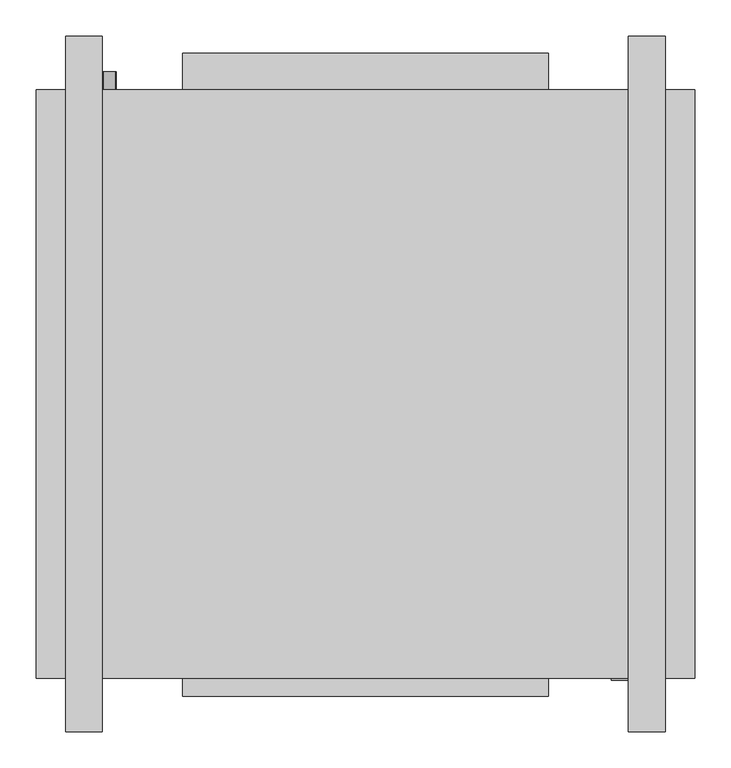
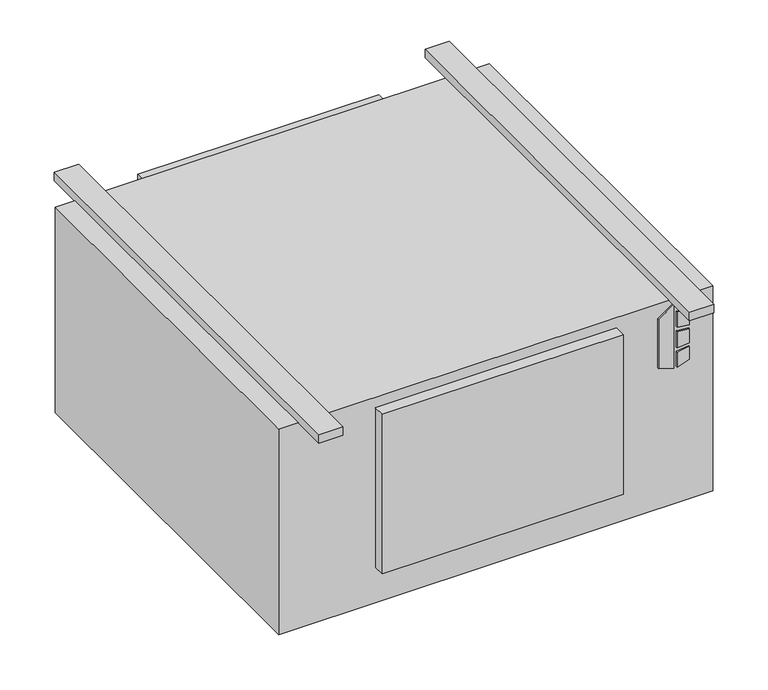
"""IFC4 building model written with IfcOpenShell, lengths in millimetres: proxy geometry, Concealed_High_Capacity_Horizontal_Cabinet_Fan_Coil_Unit_-_HXY_-_IEC_-_4-Pipe_LH_2022 : Size 08 - 277v/60Hz/1Ph - 6/2 Coil."""

import ifcopenshell
import ifcopenshell.guid

model = None  # the IFC model being written
_history = None  # IfcOwnerHistory: only IFC2X3 demands one
_inside = {}  # id of a spatial element -> (the spatial element, [elements in it])
_under = {}  # id of a project, library or spatial element -> (it, [spatial elements below it])
_declared = {}  # id of a project -> (the project, [libraries it declares])
_typed = {}  # id of a type object -> (the type object, [elements of that type])
_made_of = {}  # id of a material, layer set ... -> (it, [elements and type objects made of it])


def new_model(schema):
    """Start an empty IFC model of exactly this schema.

    Asked for "IFC4X3", IfcOpenShell would pick the latest addendum, in which some entities
    have other attributes; the version numbers below select the first issue.
    IFC2X3 requires an IfcOwnerHistory on every rooted entity: one is made here for all.
    """
    global model, _history
    if schema == "IFC4X3":
        model = ifcopenshell.file(schema_version=(4, 3, 0, 0))
    else:
        model = ifcopenshell.file(schema=schema)
    _inside.clear()
    _under.clear()
    _declared.clear()
    _typed.clear()
    _made_of.clear()
    _history = None
    if model.schema == "IFC2X3":
        org = make("IfcOrganization", Name="unknown")
        user = make(
            "IfcPersonAndOrganization",
            ThePerson=make("IfcPerson", FamilyName="unknown"),
            TheOrganization=org,
        )
        app = make(
            "IfcApplication",
            ApplicationDeveloper=org,
            Version="unknown",
            ApplicationFullName="unknown",
            ApplicationIdentifier="unknown",
        )
        _history = make(
            "IfcOwnerHistory",
            OwningUser=user,
            OwningApplication=app,
            ChangeAction="ADDED",
            CreationDate=0,
        )
    return model


def make(cls, **values):
    """One entity of the class cls with the attributes given. An attribute that is None is left unset."""
    return model.create_entity(
        cls, **{name: value for name, value in values.items() if value is not None}
    )


def rooted(cls, **values):
    """An entity with a GlobalId (a new one), such as an element, a storey or a relation."""
    return make(cls, GlobalId=ifcopenshell.guid.new(), OwnerHistory=_history, **values)


def si_unit(unit_type, name, prefix=None):
    """IfcSIUnit, for example si_unit("LENGTHUNIT", "METRE", prefix="MILLI")."""
    return make("IfcSIUnit", UnitType=unit_type, Prefix=prefix, Name=name)


def assignment(units):
    """IfcUnitAssignment: the units of a project."""
    return None if units is None else make("IfcUnitAssignment", Units=units)


def point(xyz):
    """IfcCartesianPoint."""
    return None if xyz is None else make("IfcCartesianPoint", Coordinates=xyz)


def direction(xyz):
    """IfcDirection."""
    return None if xyz is None else make("IfcDirection", DirectionRatios=xyz)


def frame(location, z_axis=None, x_axis=None):
    """IfcAxis2Placement3D, a coordinate frame: its origin and axes. An axis left out is left unset."""
    return make(
        "IfcAxis2Placement3D",
        Location=point(location),
        Axis=direction(z_axis),
        RefDirection=direction(x_axis),
    )


def frame_2d(location, x_axis=None):
    """IfcAxis2Placement2D, a coordinate frame in the plane: its origin and x axis."""
    return make(
        "IfcAxis2Placement2D", Location=point(location), RefDirection=direction(x_axis)
    )


def origin():
    """The frame at (0, 0, 0) with its axes left unset."""
    return frame((0.0, 0.0, 0.0))


def origin_with_axes():
    """The frame at (0, 0, 0) with the z axis (0, 0, 1) and the x axis (1, 0, 0) written out."""
    return frame((0.0, 0.0, 0.0), z_axis=(0.0, 0.0, 1.0), x_axis=(1.0, 0.0, 0.0))


def place(relative_to, where):
    """IfcLocalPlacement: puts the frame where relative to a parent placement (None: the world)."""
    return make(
        "IfcLocalPlacement", PlacementRelTo=relative_to, RelativePlacement=where
    )


def context(
    kind, dimensions, precision=None, world=None, true_north=None, identifier=None
):
    """IfcGeometricRepresentationContext, for example the 3D "Model" context."""
    return make(
        "IfcGeometricRepresentationContext",
        ContextIdentifier=identifier,
        ContextType=kind,
        CoordinateSpaceDimension=dimensions,
        Precision=precision,
        WorldCoordinateSystem=world,
        TrueNorth=true_north,
    )


def project(units=None, contexts=None):
    """IfcProject with its units and contexts."""
    return rooted(
        "IfcProject",
        Name="project",
        RepresentationContexts=contexts,
        UnitsInContext=assignment(units),
    )


def spatial(cls, under=None, at=None, **own):
    """A site, building, storey or space (cls), placed at a placement, below another one or the project."""
    s = rooted(cls, ObjectPlacement=at, **own)
    if under is not None:
        _under.setdefault(under.id(), (under, []))[1].append(s)
    return s


def polyline(points):
    """IfcPolyline through the points."""
    return make("IfcPolyline", Points=[point(p) for p in points])


def circle_curve(where, radius):
    """IfcCircle in the frame where."""
    return make("IfcCircle", Position=where, Radius=radius)


def trimmed(basis, trim1, trim2, sense, master):
    """IfcTrimmedCurve: the piece of a basis curve between two trims."""
    return make(
        "IfcTrimmedCurve",
        BasisCurve=basis,
        Trim1=trim1,
        Trim2=trim2,
        SenseAgreement=sense,
        MasterRepresentation=master,
    )


def segment(curve, same_sense, transition):
    """IfcCompositeCurveSegment."""
    return make(
        "IfcCompositeCurveSegment",
        Transition=transition,
        SameSense=same_sense,
        ParentCurve=curve,
    )


def composite_curve(segments, self_intersect=None):
    """IfcCompositeCurve: segments joined end to end."""
    return make("IfcCompositeCurve", Segments=segments, SelfIntersect=self_intersect)


def outline(outer, holes=None, kind="AREA"):
    """IfcArbitraryClosedProfileDef: a profile drawn as a closed curve; with holes, ...WithVoids."""
    if holes is None:
        return make("IfcArbitraryClosedProfileDef", ProfileType=kind, OuterCurve=outer)
    return make(
        "IfcArbitraryProfileDefWithVoids",
        ProfileType=kind,
        OuterCurve=outer,
        InnerCurves=holes,
    )


def extrude(swept, where, along, depth):
    """IfcExtrudedAreaSolid: the profile swept, set in the frame where, extruded along a direction by depth."""
    return make(
        "IfcExtrudedAreaSolid",
        SweptArea=swept,
        Position=where,
        ExtrudedDirection=direction(along),
        Depth=depth,
    )


def shape(context_of_items, identifier, shape_type, items):
    """IfcShapeRepresentation: the items that make up one representation, for example the "Body"."""
    return make(
        "IfcShapeRepresentation",
        ContextOfItems=context_of_items,
        RepresentationIdentifier=identifier,
        RepresentationType=shape_type,
        Items=items,
    )


def source(mapping_origin, context_of_items, identifier, shape_type, items):
    """IfcRepresentationMap: a shape defined once, which mapped items show again and again."""
    return make(
        "IfcRepresentationMap",
        MappingOrigin=mapping_origin,
        MappedRepresentation=shape(context_of_items, identifier, shape_type, items),
    )


def transform(
    local_origin,
    x_axis=None,
    y_axis=None,
    z_axis=None,
    scale=None,
    scale2=None,
    scale3=None,
    uniform=True,
):
    """IfcCartesianTransformationOperator3D, or its non-uniform kind. x_axis, y_axis, z_axis: its Axis1, 2, 3."""
    if uniform:
        return make(
            "IfcCartesianTransformationOperator3D",
            Axis1=direction(x_axis),
            Axis2=direction(y_axis),
            LocalOrigin=point(local_origin),
            Scale=scale,
            Axis3=direction(z_axis),
        )
    return make(
        "IfcCartesianTransformationOperator3DnonUniform",
        Axis1=direction(x_axis),
        Axis2=direction(y_axis),
        LocalOrigin=point(local_origin),
        Scale=scale,
        Axis3=direction(z_axis),
        Scale2=scale2,
        Scale3=scale3,
    )


def mapped(mapping_source, mapping_target):
    """IfcMappedItem: shows the shape of a source again, moved by a transform."""
    return make(
        "IfcMappedItem", MappingSource=mapping_source, MappingTarget=mapping_target
    )


def made_of(thing, what):
    """Note that an element or type object is made of a material, layer set ...; save() writes the relation."""
    if what is not None:
        _made_of.setdefault(what.id(), (what, []))[1].append(thing)
    return thing


def element(
    cls,
    number,
    at=None,
    inside=None,
    cuts=None,
    type_object=None,
    material=None,
    context=None,
    identifier="Body",
    shape_type=None,
    held_by="IfcProductDefinitionShape",
    body=None,
    shapes=None,
    **own,
):
    """One element of the class cls, such as IfcWall. Its Tag is "e" and its number.

    at: its placement. inside: the storey or other place that contains it. cuts: it is an
    opening in that element (IfcRelVoidsElement). A single representation is given by context,
    identifier, shape_type and body (its items); several are given by shapes. held_by: the class
    of the entity that holds the representations. save() writes the other relations.
    """
    e = rooted(cls, Tag="e%d" % number, ObjectPlacement=at, **own)
    if body is not None:
        shapes = [shape(context, identifier, shape_type, body)]
    if shapes is not None:
        e.Representation = make(held_by, Representations=shapes)
    if inside is not None:
        _inside.setdefault(inside.id(), (inside, []))[1].append(e)
    if cuts is not None:
        rooted(
            "IfcRelVoidsElement", RelatingBuildingElement=cuts, RelatedOpeningElement=e
        )
    if type_object is not None:
        _typed.setdefault(type_object.id(), (type_object, []))[1].append(e)
    return made_of(e, material)


def aggregate(whole, parts):
    """IfcRelAggregates: a whole, such as a stair, and the parts it consists of."""
    return rooted("IfcRelAggregates", RelatingObject=whole, RelatedObjects=parts)


def save(model, path):
    """Write the relations noted so far, then the file.

    IfcRelAggregates (storeys below a building ...), IfcRelContainedInSpatialStructure (elements
    in a storey), IfcRelDefinesByType, IfcRelAssociatesMaterial and IfcRelDeclares: one each for
    every whole, place, type object, material and project.
    """
    for whole, parts in _under.values():
        aggregate(whole, parts)
    for where, things in _inside.values():
        rooted(
            "IfcRelContainedInSpatialStructure",
            RelatedElements=things,
            RelatingStructure=where,
        )
    for kind, things in _typed.values():
        rooted("IfcRelDefinesByType", RelatedObjects=things, RelatingType=kind)
    for what, things in _made_of.values():
        rooted("IfcRelAssociatesMaterial", RelatedObjects=things, RelatingMaterial=what)
    for by, libraries in _declared.values():
        rooted("IfcRelDeclares", RelatingContext=by, RelatedDefinitions=libraries)
    model.write(path)


def mechanical_equipment_d076b388(model_context):
    return source(origin(), model_context, "Body", "SweptSolid", [
        extrude(outline(polyline([(-142.4519297, 493.7868862), (-152.4, 525.9602728), (-10.2290756, 525.9602728), (-33.2510817, 493.7868862), (-142.4519297, 493.7868862)])), frame((0.0, -649.2875, 0.0), z_axis=(0.0, 1.0, 0.0), x_axis=(0.0, 0.0, 1.0)), (0.0, 0.0, 1.0), 3.175),
        extrude(outline(polyline([(-63.4526443, 532.7186058), (-66.6550368, 558.8), (-37.4261958, 558.8), (-29.3617807, 532.7186058), (-63.4526443, 532.7186058)])), frame((0.0, -649.2875, 0.0), z_axis=(0.0, 1.0, 0.0), x_axis=(0.0, 0.0, 1.0)), (0.0, 0.0, 1.0), 3.175),
        extrude(outline(polyline([(-115.3161712, 558.8), (-118.9816721, 532.7186058), (-152.4, 532.7186058), (-143.7657628, 558.8), (-115.3161712, 558.8)])), frame((0.0, -649.2875, 0.0), z_axis=(0.0, 1.0, 0.0), x_axis=(0.0, 0.0, 1.0)), (0.0, 0.0, 1.0), 3.175),
        extrude(outline(polyline([(-76.0010097, 558.8), (-73.7191834, 532.7186058), (-109.6567319, 532.7186058), (-106.9154669, 558.8), (-76.0010097, 558.8)])), frame((0.0, -649.2875, 0.0), z_axis=(0.0, 1.0, 0.0), x_axis=(0.0, 0.0, 1.0)), (0.0, 0.0, 1.0), 3.175),
        extrude(outline(composite_curve([segment(trimmed(circle_curve(frame_2d((-406.4, -203.2)), 9.525), [point((-406.4, -212.725))], [point((-406.4, -193.675))], False, "CARTESIAN"), True, "CONTINUOUS"), segment(trimmed(circle_curve(frame_2d((-406.4, -203.2)), 9.525), [point((-406.4, -193.675))], [point((-406.4, -212.725))], False, "CARTESIAN"), True, "CONTINUOUS")], self_intersect=False)), frame((0.0, 169.8625, 0.0), z_axis=(0.0, 1.0, 0.0), x_axis=(0.0, 0.0, 1.0)), (0.0, 0.0, 1.0), 25.4),
        extrude(outline(composite_curve([segment(trimmed(circle_curve(frame_2d((-330.2, -203.2)), 7.9375), [point((-330.2, -211.1375))], [point((-330.2, -195.2625))], False, "CARTESIAN"), True, "CONTINUOUS"), segment(trimmed(circle_curve(frame_2d((-330.2, -203.2)), 7.9375), [point((-330.2, -195.2625))], [point((-330.2, -211.1375))], False, "CARTESIAN"), True, "CONTINUOUS")], self_intersect=False)), frame((0.0, 169.8625, 0.0), z_axis=(0.0, 1.0, 0.0), x_axis=(0.0, 0.0, 1.0)), (0.0, 0.0, 1.0), 25.4),
        extrude(outline(composite_curve([segment(trimmed(circle_curve(frame_2d((-254.0, -203.2)), 7.9375), [point((-254.0, -211.1375))], [point((-254.0, -195.2625))], False, "CARTESIAN"), True, "CONTINUOUS"), segment(trimmed(circle_curve(frame_2d((-254.0, -203.2)), 7.9375), [point((-254.0, -195.2625))], [point((-254.0, -211.1375))], False, "CARTESIAN"), True, "CONTINUOUS")], self_intersect=False)), frame((0.0, 169.8625, 0.0), z_axis=(0.0, 1.0, 0.0), x_axis=(0.0, 0.0, 1.0)), (0.0, 0.0, 1.0), 25.4),
        extrude(outline(composite_curve([segment(trimmed(circle_curve(frame_2d((-177.8, -203.2)), 7.9375), [point((-177.8, -211.1375))], [point((-177.8, -195.2625))], False, "CARTESIAN"), True, "CONTINUOUS"), segment(trimmed(circle_curve(frame_2d((-177.8, -203.2)), 7.9375), [point((-177.8, -195.2625))], [point((-177.8, -211.1375))], False, "CARTESIAN"), True, "CONTINUOUS")], self_intersect=False)), frame((0.0, 169.8625, 0.0), z_axis=(0.0, 1.0, 0.0), x_axis=(0.0, 0.0, 1.0)), (0.0, 0.0, 1.0), 25.4),
        extrude(outline(composite_curve([segment(trimmed(circle_curve(frame_2d((-101.6, -203.2)), 7.9375), [point((-101.6, -211.1375))], [point((-101.6, -195.2625))], False, "CARTESIAN"), True, "CONTINUOUS"), segment(trimmed(circle_curve(frame_2d((-101.6, -203.2)), 7.9375), [point((-101.6, -195.2625))], [point((-101.6, -211.1375))], False, "CARTESIAN"), True, "CONTINUOUS")], self_intersect=False)), frame((0.0, 169.8625, 0.0), z_axis=(0.0, 1.0, 0.0), x_axis=(0.0, 0.0, 1.0)), (0.0, 0.0, 1.0), 25.4),
        extrude(outline(polyline([(609.6, 169.8625), (609.6, -646.1125), (-304.8, -646.1125), (-304.8, 169.8625), (609.6, 169.8625)])), frame((0.0, 0.0, -457.2), z_axis=(0.0, 0.0, 1.0), x_axis=(1.0, 0.0, 0.0)), (0.0, 0.0, 1.0), 457.2),
        extrude(outline(polyline([(-101.6, 220.6625), (406.4, 220.6625), (406.4, 169.8625), (-101.6, 169.8625), (-101.6, 220.6625)])), frame((0.0, 0.0, -377.825), z_axis=(0.0, 0.0, 1.0), x_axis=(1.0, 0.0, 0.0)), (0.0, 0.0, 1.0), 349.25),
        extrude(outline(polyline([(-212.725, 244.475), (-212.725, -720.725), (-263.525, -720.725), (-263.525, 244.475), (-212.725, 244.475)])), origin_with_axes(), (0.0, 0.0, 1.0), 19.05),
        extrude(outline(polyline([(568.325, 244.475), (568.325, -720.725), (517.525, -720.725), (517.525, 244.475), (568.325, 244.475)])), origin_with_axes(), (0.0, 0.0, 1.0), 19.05),
        extrude(outline(polyline([(406.4, -671.5125), (-101.6, -671.5125), (-101.6, -646.1125), (406.4, -646.1125), (406.4, -671.5125)])), frame((0.0, 0.0, -377.825), z_axis=(0.0, 0.0, 1.0), x_axis=(1.0, 0.0, 0.0)), (0.0, 0.0, 1.0), 355.6),
    ])


if __name__ == "__main__":
    model = new_model("IFC4")
    model_context = context("Model", 3, world=origin())
    ifc_project = project(units=[si_unit("LENGTHUNIT", "METRE", prefix="MILLI")], contexts=[model_context])
    site = spatial("IfcSite", under=ifc_project)
    building = spatial("IfcBuilding", under=site)
    placement = place(None, origin())
    mechanical_equipment_shape = mechanical_equipment_d076b388(model_context)
    element("IfcBuildingElementProxy", 1, Name="Concealed_High_Capacity_Horizontal_Cabinet_Fan_Coil_Unit_-_HXY_-_IEC_-_4-Pipe_LH_2022 : Size 08 - 277v/60Hz/1Ph - 6/2 Coil", ObjectType="Concealed_High_Capacity_Horizontal_Cabinet_Fan_Coil_Unit_-_HXY_-_IEC_-_4-Pipe_LH_2022 : Size 08 - 277v/60Hz/1Ph - 6/2 Coil", at=placement, inside=building, context=model_context, shape_type="MappedRepresentation", body=[
        mapped(mechanical_equipment_shape, transform((0.0, 0.0, 0.0), x_axis=(1.0, 0.0, 0.0), y_axis=(0.0, 1.0, 0.0), z_axis=(0.0, 0.0, 1.0))),
    ])
    save(model, "model.ifc")
